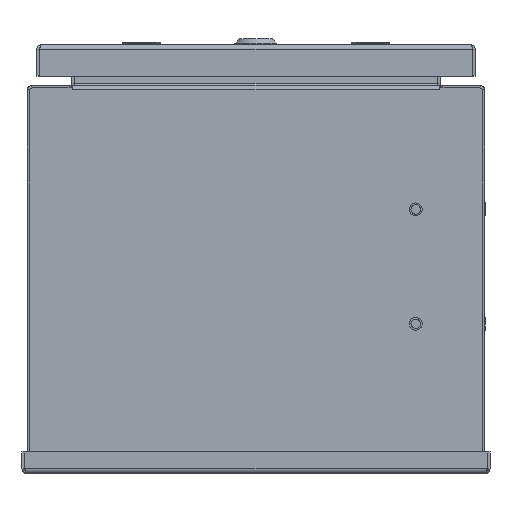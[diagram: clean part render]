
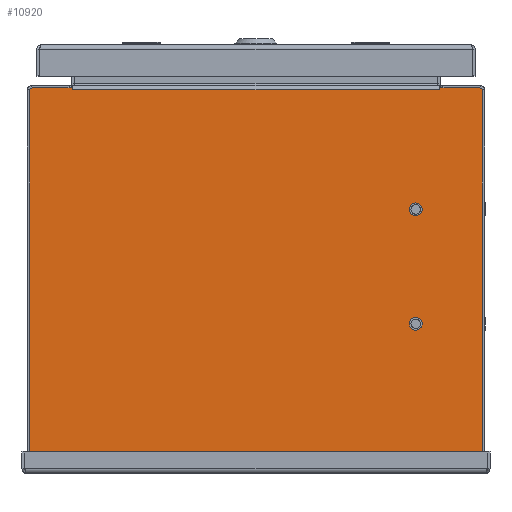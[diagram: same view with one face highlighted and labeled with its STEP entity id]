
A CAD part, front view. The second image highlights one B-rep face of the part: STEP entity #10920.
In plain terms, the highlighted planar face has unit normal (0, -1, 0).
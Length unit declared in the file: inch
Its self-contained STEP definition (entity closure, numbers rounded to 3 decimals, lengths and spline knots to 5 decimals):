
#9583=CARTESIAN_POINT('',(-5.857,0.,4.857));
#9584=DIRECTION('',(0.,-1.,0.));
#9585=DIRECTION('',(0.,0.,1.));
#9586=AXIS2_PLACEMENT_3D('',#9583,#9584,#9585);
#9591=DIRECTION('',(-1.,0.,0.));
#9592=VECTOR('',#9591,1.03388);
#9593=CARTESIAN_POINT('',(-4.82312,0.,4.937));
#9594=LINE('',#9593,#9592);
#9598=DIRECTION('',(0.174,0.,-0.985));
#9599=VECTOR('',#9598,0.05483);
#9600=CARTESIAN_POINT('',(-4.82312,0.,4.937));
#9601=LINE('',#9600,#9599);
#9605=DIRECTION('',(-1.,0.,0.));
#9606=VECTOR('',#9605,0.0156);
#9607=CARTESIAN_POINT('',(-4.798,0.,4.883));
#9608=LINE('',#9607,#9606);
#9612=DIRECTION('',(1.,0.,0.));
#9613=VECTOR('',#9612,0.0156);
#9614=CARTESIAN_POINT('',(4.798,0.,4.883));
#9615=LINE('',#9614,#9613);
#9619=DIRECTION('',(-0.174,0.,-0.985));
#9620=VECTOR('',#9619,0.05483);
#9621=CARTESIAN_POINT('',(4.82312,0.,4.937));
#9622=LINE('',#9621,#9620);
#9626=DIRECTION('',(-1.,0.,0.));
#9627=VECTOR('',#9626,1.03388);
#9628=CARTESIAN_POINT('',(5.857,0.,4.937));
#9629=LINE('',#9628,#9627);
#9633=CARTESIAN_POINT('',(5.857,0.,4.857));
#9634=DIRECTION('',(0.,-1.,0.));
#9635=DIRECTION('',(1.,0.,0.));
#9636=AXIS2_PLACEMENT_3D('',#9633,#9634,#9635);
#9641=DIRECTION('',(0.,0.,1.));
#9642=VECTOR('',#9641,9.714);
#9643=CARTESIAN_POINT('',(5.937,0.,-4.857));
#9644=LINE('',#9643,#9642);
#9648=CARTESIAN_POINT('',(5.857,0.,-4.857));
#9649=DIRECTION('',(0.,-1.,0.));
#9650=DIRECTION('',(0.,0.,-1.));
#9651=AXIS2_PLACEMENT_3D('',#9648,#9649,#9650);
#9656=DIRECTION('',(1.,0.,0.));
#9657=VECTOR('',#9656,11.714);
#9658=CARTESIAN_POINT('',(-5.857,0.,-4.937));
#9659=LINE('',#9658,#9657);
#9663=CARTESIAN_POINT('',(-5.857,0.,-4.857));
#9664=DIRECTION('',(0.,-1.,0.));
#9665=DIRECTION('',(-1.,0.,0.));
#9666=AXIS2_PLACEMENT_3D('',#9663,#9664,#9665);
#9671=DIRECTION('',(0.,0.,-1.));
#9672=VECTOR('',#9671,9.714);
#9673=CARTESIAN_POINT('',(-5.937,0.,4.857));
#9674=LINE('',#9673,#9672);
#9678=CARTESIAN_POINT('',(4.1875,0.,1.75));
#9679=DIRECTION('',(0.,1.,0.));
#9680=DIRECTION('',(0.,0.,-1.));
#9681=AXIS2_PLACEMENT_3D('',#9678,#9679,#9680);
#9686=CARTESIAN_POINT('',(4.1875,0.,1.75));
#9687=DIRECTION('',(0.,1.,0.));
#9688=DIRECTION('',(0.,0.,1.));
#9689=AXIS2_PLACEMENT_3D('',#9686,#9687,#9688);
#9694=CARTESIAN_POINT('',(4.1875,0.,-1.25));
#9695=DIRECTION('',(0.,1.,0.));
#9696=DIRECTION('',(0.,0.,-1.));
#9697=AXIS2_PLACEMENT_3D('',#9694,#9695,#9696);
#9702=CARTESIAN_POINT('',(4.1875,0.,-1.25));
#9703=DIRECTION('',(0.,1.,0.));
#9704=DIRECTION('',(0.,0.,1.));
#9705=AXIS2_PLACEMENT_3D('',#9702,#9703,#9704);
#10016=DIRECTION('',(1.,0.,0.));
#10017=VECTOR('',#10016,9.596);
#10018=CARTESIAN_POINT('',(-4.798,0.,4.883));
#10019=LINE('',#10018,#10017);
#10705=CARTESIAN_POINT('',(4.798,0.,4.883));
#10706=CARTESIAN_POINT('',(4.8136,0.,4.883));
#10707=VERTEX_POINT('',#10705);
#10708=VERTEX_POINT('',#10706);
#10709=CARTESIAN_POINT('',(4.82312,0.,4.937));
#10710=VERTEX_POINT('',#10709);
#10717=CARTESIAN_POINT('',(-4.798,0.,4.883));
#10718=CARTESIAN_POINT('',(-4.8136,0.,4.883));
#10719=VERTEX_POINT('',#10717);
#10720=VERTEX_POINT('',#10718);
#10721=CARTESIAN_POINT('',(-4.82312,0.,4.937));
#10722=VERTEX_POINT('',#10721);
#10781=CARTESIAN_POINT('',(-5.857,0.,4.937));
#10782=CARTESIAN_POINT('',(-5.937,0.,4.857));
#10783=VERTEX_POINT('',#10781);
#10784=VERTEX_POINT('',#10782);
#10789=CARTESIAN_POINT('',(-5.937,0.,-4.857));
#10790=CARTESIAN_POINT('',(-5.857,0.,-4.937));
#10791=VERTEX_POINT('',#10789);
#10792=VERTEX_POINT('',#10790);
#10797=CARTESIAN_POINT('',(5.857,0.,-4.937));
#10798=CARTESIAN_POINT('',(5.937,0.,-4.857));
#10799=VERTEX_POINT('',#10797);
#10800=VERTEX_POINT('',#10798);
#10805=CARTESIAN_POINT('',(5.937,0.,4.857));
#10806=CARTESIAN_POINT('',(5.857,0.,4.937));
#10807=VERTEX_POINT('',#10805);
#10808=VERTEX_POINT('',#10806);
#10857=CARTESIAN_POINT('',(4.1875,0.,1.62495));
#10858=CARTESIAN_POINT('',(4.1875,0.,1.87505));
#10859=VERTEX_POINT('',#10857);
#10860=VERTEX_POINT('',#10858);
#10861=CARTESIAN_POINT('',(4.1875,0.,-1.37505));
#10862=CARTESIAN_POINT('',(4.1875,0.,-1.12495));
#10863=VERTEX_POINT('',#10861);
#10864=VERTEX_POINT('',#10862);
#10873=CARTESIAN_POINT('',(0.,0.,0.));
#10874=DIRECTION('',(0.,-1.,0.));
#10875=DIRECTION('',(-1.,0.,0.));
#10876=AXIS2_PLACEMENT_3D('',#10873,#10874,#10875);
#10877=PLANE('',#10876);
#10879=ORIENTED_EDGE('',*,*,#10878,.F.);
#10881=ORIENTED_EDGE('',*,*,#10880,.F.);
#10883=ORIENTED_EDGE('',*,*,#10882,.T.);
#10885=ORIENTED_EDGE('',*,*,#10884,.F.);
#10887=ORIENTED_EDGE('',*,*,#10886,.T.);
#10889=ORIENTED_EDGE('',*,*,#10888,.T.);
#10891=ORIENTED_EDGE('',*,*,#10890,.F.);
#10893=ORIENTED_EDGE('',*,*,#10892,.F.);
#10895=ORIENTED_EDGE('',*,*,#10894,.F.);
#10897=ORIENTED_EDGE('',*,*,#10896,.F.);
#10899=ORIENTED_EDGE('',*,*,#10898,.F.);
#10901=ORIENTED_EDGE('',*,*,#10900,.F.);
#10903=ORIENTED_EDGE('',*,*,#10902,.F.);
#10905=ORIENTED_EDGE('',*,*,#10904,.F.);
#10906=EDGE_LOOP('',(#10879,#10881,#10883,#10885,#10887,#10889,#10891,#10893,
#10895,#10897,#10899,#10901,#10903,#10905));
#10907=FACE_OUTER_BOUND('',#10906,.F.);
#10909=ORIENTED_EDGE('',*,*,#10908,.F.);
#10911=ORIENTED_EDGE('',*,*,#10910,.F.);
#10912=EDGE_LOOP('',(#10909,#10911));
#10913=FACE_BOUND('',#10912,.F.);
#10915=ORIENTED_EDGE('',*,*,#10914,.F.);
#10917=ORIENTED_EDGE('',*,*,#10916,.F.);
#10918=EDGE_LOOP('',(#10915,#10917));
#10919=FACE_BOUND('',#10918,.F.);
#9587=CIRCLE('',#9586,0.08);
#9637=CIRCLE('',#9636,0.08);
#9652=CIRCLE('',#9651,0.08);
#9667=CIRCLE('',#9666,0.08);
#9682=CIRCLE('',#9681,0.12505);
#9690=CIRCLE('',#9689,0.12505);
#9698=CIRCLE('',#9697,0.12505);
#9706=CIRCLE('',#9705,0.12505);
#10878=EDGE_CURVE('',#10783,#10784,#9587,.T.);
#10880=EDGE_CURVE('',#10722,#10783,#9594,.T.);
#10882=EDGE_CURVE('',#10722,#10720,#9601,.T.);
#10884=EDGE_CURVE('',#10719,#10720,#9608,.T.);
#10886=EDGE_CURVE('',#10719,#10707,#10019,.T.);
#10888=EDGE_CURVE('',#10707,#10708,#9615,.T.);
#10890=EDGE_CURVE('',#10710,#10708,#9622,.T.);
#10892=EDGE_CURVE('',#10808,#10710,#9629,.T.);
#10894=EDGE_CURVE('',#10807,#10808,#9637,.T.);
#10896=EDGE_CURVE('',#10800,#10807,#9644,.T.);
#10898=EDGE_CURVE('',#10799,#10800,#9652,.T.);
#10900=EDGE_CURVE('',#10792,#10799,#9659,.T.);
#10902=EDGE_CURVE('',#10791,#10792,#9667,.T.);
#10904=EDGE_CURVE('',#10784,#10791,#9674,.T.);
#10908=EDGE_CURVE('',#10859,#10860,#9682,.T.);
#10910=EDGE_CURVE('',#10860,#10859,#9690,.T.);
#10914=EDGE_CURVE('',#10863,#10864,#9698,.T.);
#10916=EDGE_CURVE('',#10864,#10863,#9706,.T.);
#10920=ADVANCED_FACE('',(#10907,#10913,#10919),#10877,.T.);
